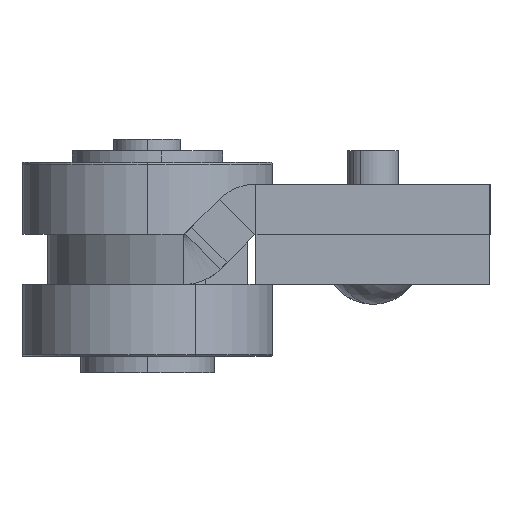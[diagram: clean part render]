
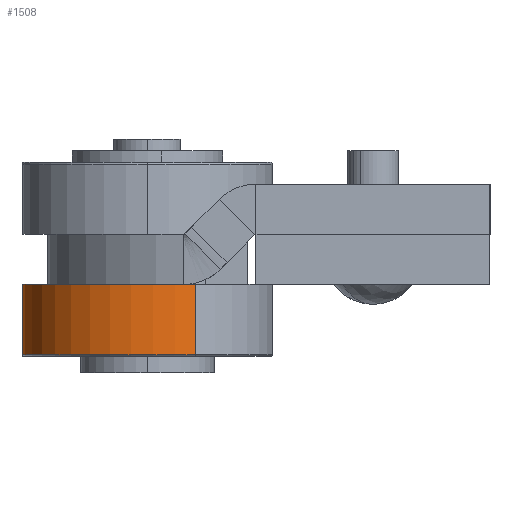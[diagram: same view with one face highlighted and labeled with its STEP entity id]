
A CAD part, left-side view. The second image highlights one B-rep face of the part: STEP entity #1508.
In plain terms, the highlighted cylindrical face has radius 7.5 mm (diameter 15 mm), a partial arc.
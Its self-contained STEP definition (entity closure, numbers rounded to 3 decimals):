
#6 = LINE ( 'NONE', #2542, #674 ) ;
#28 = FACE_OUTER_BOUND ( 'NONE', #1293, .T. ) ;
#30 = ORIENTED_EDGE ( 'NONE', *, *, #1252, .T. ) ;
#259 = ORIENTED_EDGE ( 'NONE', *, *, #2598, .T. ) ;
#296 = VERTEX_POINT ( 'NONE', #2714 ) ;
#299 = DIRECTION ( 'NONE',  ( 0., 0., -1. ) ) ;
#328 = CARTESIAN_POINT ( 'NONE',  ( 0., 0., 0. ) ) ;
#345 = DIRECTION ( 'NONE',  ( 1., 0., 0. ) ) ;
#450 = CYLINDRICAL_SURFACE ( 'NONE', #2272, 7.5 ) ;
#674 = VECTOR ( 'NONE', #2335, 1000. ) ;
#871 = EDGE_CURVE ( 'NONE', #1729, #2404, #6, .T. ) ;
#1048 = CARTESIAN_POINT ( 'NONE',  ( 0., 0., 4.3 ) ) ;
#1099 = CARTESIAN_POINT ( 'NONE',  ( 7.5, 0., 0. ) ) ;
#1141 = CARTESIAN_POINT ( 'NONE',  ( -7.5, 0., 4.3 ) ) ;
#1252 = EDGE_CURVE ( 'NONE', #296, #2404, #1688, .T. ) ;
#1293 = EDGE_LOOP ( 'NONE', ( #2009, #1477, #259, #30 ) ) ;
#1301 = AXIS2_PLACEMENT_3D ( 'NONE', #328, #2236, #345 ) ;
#1304 = CARTESIAN_POINT ( 'NONE',  ( -7.5, 0., 4.2 ) ) ;
#1477 = ORIENTED_EDGE ( 'NONE', *, *, #2265, .T. ) ;
#1508 = ADVANCED_FACE ( 'NONE', ( #28 ), #450, .T. ) ;
#1688 = CIRCLE ( 'NONE', #1301, 7.5 ) ;
#1729 = VERTEX_POINT ( 'NONE', #1963 ) ;
#1751 = DIRECTION ( 'NONE',  ( 1., 0., 0. ) ) ;
#1872 = CIRCLE ( 'NONE', #2092, 7.5 ) ;
#1886 = LINE ( 'NONE', #1141, #2456 ) ;
#1892 = DIRECTION ( 'NONE',  ( -1., 0., 0. ) ) ;
#1939 = CARTESIAN_POINT ( 'NONE',  ( 0., 0., 4.2 ) ) ;
#1963 = CARTESIAN_POINT ( 'NONE',  ( 7.5, 0., 4.2 ) ) ;
#2009 = ORIENTED_EDGE ( 'NONE', *, *, #871, .F. ) ;
#2092 = AXIS2_PLACEMENT_3D ( 'NONE', #1939, #2376, #1751 ) ;
#2112 = DIRECTION ( 'NONE',  ( 0., 0., -1. ) ) ;
#2236 = DIRECTION ( 'NONE',  ( 0., 0., 1. ) ) ;
#2265 = EDGE_CURVE ( 'NONE', #1729, #2537, #1872, .T. ) ;
#2272 = AXIS2_PLACEMENT_3D ( 'NONE', #1048, #2112, #1892 ) ;
#2335 = DIRECTION ( 'NONE',  ( 0., 0., -1. ) ) ;
#2376 = DIRECTION ( 'NONE',  ( 0., 0., -1. ) ) ;
#2404 = VERTEX_POINT ( 'NONE', #1099 ) ;
#2456 = VECTOR ( 'NONE', #299, 1000. ) ;
#2537 = VERTEX_POINT ( 'NONE', #1304 ) ;
#2542 = CARTESIAN_POINT ( 'NONE',  ( 7.5, 0., 4.3 ) ) ;
#2598 = EDGE_CURVE ( 'NONE', #2537, #296, #1886, .T. ) ;
#2714 = CARTESIAN_POINT ( 'NONE',  ( -7.5, 0., 0. ) ) ;
